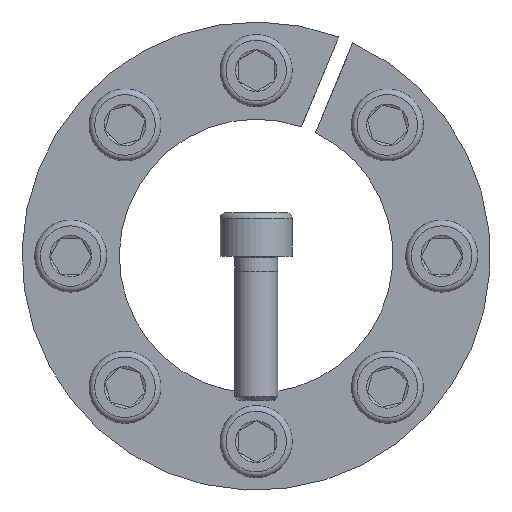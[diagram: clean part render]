
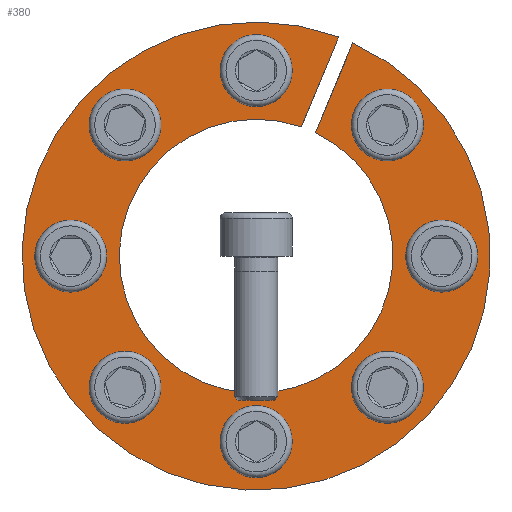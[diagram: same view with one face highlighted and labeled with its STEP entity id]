
A CAD part, front view. The second image highlights one B-rep face of the part: STEP entity #380.
In plain terms, the highlighted planar face has unit normal (0, -1, 0).
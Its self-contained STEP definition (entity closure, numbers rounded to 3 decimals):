
#380 = ADVANCED_FACE( '', ( #583, #584, #585, #586, #587, #588, #589, #590, #591 ), #592, .F. );
#583 = FACE_BOUND( '', #747, .T. );
#584 = FACE_BOUND( '', #748, .T. );
#585 = FACE_BOUND( '', #749, .T. );
#586 = FACE_BOUND( '', #750, .T. );
#587 = FACE_OUTER_BOUND( '', #751, .T. );
#588 = FACE_BOUND( '', #752, .T. );
#589 = FACE_BOUND( '', #753, .T. );
#590 = FACE_BOUND( '', #754, .T. );
#591 = FACE_BOUND( '', #755, .T. );
#592 = PLANE( '', #756 );
#747 = EDGE_LOOP( '', ( #960 ) );
#748 = EDGE_LOOP( '', ( #961 ) );
#749 = EDGE_LOOP( '', ( #962 ) );
#750 = EDGE_LOOP( '', ( #963 ) );
#751 = EDGE_LOOP( '', ( #964, #965, #966, #967 ) );
#752 = EDGE_LOOP( '', ( #968 ) );
#753 = EDGE_LOOP( '', ( #969 ) );
#754 = EDGE_LOOP( '', ( #970 ) );
#755 = EDGE_LOOP( '', ( #971 ) );
#756 = AXIS2_PLACEMENT_3D( '', #972, #973, #974 );
#960 = ORIENTED_EDGE( '', *, *, #1294, .T. );
#961 = ORIENTED_EDGE( '', *, *, #1295, .T. );
#962 = ORIENTED_EDGE( '', *, *, #1296, .T. );
#963 = ORIENTED_EDGE( '', *, *, #1297, .T. );
#964 = ORIENTED_EDGE( '', *, *, #1292, .F. );
#965 = ORIENTED_EDGE( '', *, *, #1288, .F. );
#966 = ORIENTED_EDGE( '', *, *, #1298, .T. );
#967 = ORIENTED_EDGE( '', *, *, #1299, .F. );
#968 = ORIENTED_EDGE( '', *, *, #1300, .T. );
#969 = ORIENTED_EDGE( '', *, *, #1301, .T. );
#970 = ORIENTED_EDGE( '', *, *, #1302, .T. );
#971 = ORIENTED_EDGE( '', *, *, #1303, .T. );
#972 = CARTESIAN_POINT( '', ( 0., 0., 32.5 ) );
#973 = DIRECTION( '', ( 0., 1., 0. ) );
#974 = DIRECTION( '', ( 0., 0., 1. ) );
#1288 = EDGE_CURVE( '', #1423, #1425, #1426, .T. );
#1292 = EDGE_CURVE( '', #1425, #1432, #1433, .T. );
#1294 = EDGE_CURVE( '', #1435, #1435, #1436, .T. );
#1295 = EDGE_CURVE( '', #1437, #1437, #1438, .T. );
#1296 = EDGE_CURVE( '', #1439, #1439, #1440, .T. );
#1297 = EDGE_CURVE( '', #1441, #1441, #1442, .T. );
#1298 = EDGE_CURVE( '', #1423, #1443, #1444, .T. );
#1299 = EDGE_CURVE( '', #1432, #1443, #1445, .T. );
#1300 = EDGE_CURVE( '', #1446, #1446, #1447, .T. );
#1301 = EDGE_CURVE( '', #1448, #1448, #1449, .T. );
#1302 = EDGE_CURVE( '', #1450, #1450, #1451, .T. );
#1303 = EDGE_CURVE( '', #1452, #1452, #1453, .T. );
#1423 = VERTEX_POINT( '', #1551 );
#1425 = VERTEX_POINT( '', #1554 );
#1426 = LINE( '', #1555, #1556 );
#1432 = VERTEX_POINT( '', #1564 );
#1433 = CIRCLE( '', #1565, 19. );
#1435 = VERTEX_POINT( '', #1568 );
#1436 = CIRCLE( '', #1569, 3. );
#1437 = VERTEX_POINT( '', #1570 );
#1438 = CIRCLE( '', #1571, 3. );
#1439 = VERTEX_POINT( '', #1572 );
#1440 = CIRCLE( '', #1573, 3. );
#1441 = VERTEX_POINT( '', #1574 );
#1442 = CIRCLE( '', #1575, 3. );
#1443 = VERTEX_POINT( '', #1576 );
#1444 = CIRCLE( '', #1577, 32.5 );
#1445 = LINE( '', #1578, #1579 );
#1446 = VERTEX_POINT( '', #1580 );
#1447 = CIRCLE( '', #1581, 3. );
#1448 = VERTEX_POINT( '', #1582 );
#1449 = CIRCLE( '', #1583, 3. );
#1450 = VERTEX_POINT( '', #1584 );
#1451 = CIRCLE( '', #1585, 3. );
#1452 = VERTEX_POINT( '', #1586 );
#1453 = CIRCLE( '', #1587, 3. );
#1551 = CARTESIAN_POINT( '', ( 11.446, 0., 30.418 ) );
#1554 = CARTESIAN_POINT( '', ( 6.275, 0., 17.934 ) );
#1555 = CARTESIAN_POINT( '', ( 11.453, 0., 30.434 ) );
#1556 = VECTOR( '', #1674, 1000. );
#1564 = CARTESIAN_POINT( '', ( 8.244, 0., 17.118 ) );
#1565 = AXIS2_PLACEMENT_3D( '', #1680, #1681, #1682 );
#1568 = CARTESIAN_POINT( '', ( -25.75, 0., 3. ) );
#1569 = AXIS2_PLACEMENT_3D( '', #1684, #1685, #1686 );
#1570 = CARTESIAN_POINT( '', ( -3., 0., -25.75 ) );
#1571 = AXIS2_PLACEMENT_3D( '', #1687, #1688, #1689 );
#1572 = CARTESIAN_POINT( '', ( 25.75, 0., -3. ) );
#1573 = AXIS2_PLACEMENT_3D( '', #1690, #1691, #1692 );
#1574 = CARTESIAN_POINT( '', ( 3., 0., 25.75 ) );
#1575 = AXIS2_PLACEMENT_3D( '', #1693, #1694, #1695 );
#1576 = CARTESIAN_POINT( '', ( 13.415, 0., 29.602 ) );
#1577 = AXIS2_PLACEMENT_3D( '', #1696, #1697, #1698 );
#1578 = CARTESIAN_POINT( '', ( 8.244, 0., 17.118 ) );
#1579 = VECTOR( '', #1699, 1000. );
#1580 = CARTESIAN_POINT( '', ( 20.329, 0., 16.087 ) );
#1581 = AXIS2_PLACEMENT_3D( '', #1700, #1701, #1702 );
#1582 = CARTESIAN_POINT( '', ( 16.087, 0., -20.329 ) );
#1583 = AXIS2_PLACEMENT_3D( '', #1703, #1704, #1705 );
#1584 = CARTESIAN_POINT( '', ( -20.329, 0., -16.087 ) );
#1585 = AXIS2_PLACEMENT_3D( '', #1706, #1707, #1708 );
#1586 = CARTESIAN_POINT( '', ( -16.087, 0., 20.329 ) );
#1587 = AXIS2_PLACEMENT_3D( '', #1709, #1710, #1711 );
#1674 = DIRECTION( '', ( -0.383, 0., -0.924 ) );
#1680 = CARTESIAN_POINT( '', ( 0., 0., 0. ) );
#1681 = DIRECTION( '', ( 0., -1., 0. ) );
#1682 = DIRECTION( '', ( 0., 0., -1. ) );
#1684 = CARTESIAN_POINT( '', ( -25.75, 0., 0. ) );
#1685 = DIRECTION( '', ( 0., 1., 0. ) );
#1686 = DIRECTION( '', ( 0., 0., 1. ) );
#1687 = CARTESIAN_POINT( '', ( 0., 0., -25.75 ) );
#1688 = DIRECTION( '', ( 0., 1., 0. ) );
#1689 = DIRECTION( '', ( -1., 0., 0. ) );
#1690 = CARTESIAN_POINT( '', ( 25.75, 0., 0. ) );
#1691 = DIRECTION( '', ( 0., 1., 0. ) );
#1692 = DIRECTION( '', ( 0., 0., -1. ) );
#1693 = CARTESIAN_POINT( '', ( 0., 0., 25.75 ) );
#1694 = DIRECTION( '', ( 0., 1., 0. ) );
#1695 = DIRECTION( '', ( 1., 0., 0. ) );
#1696 = CARTESIAN_POINT( '', ( 0., 0., 0. ) );
#1697 = DIRECTION( '', ( 0., -1., 0. ) );
#1698 = DIRECTION( '', ( 0., 0., -1. ) );
#1699 = DIRECTION( '', ( 0.383, 0., 0.924 ) );
#1700 = CARTESIAN_POINT( '', ( 18.208, 0., 18.208 ) );
#1701 = DIRECTION( '', ( 0., 1., 0. ) );
#1702 = DIRECTION( '', ( 0.707, 0., -0.707 ) );
#1703 = CARTESIAN_POINT( '', ( 18.208, 0., -18.208 ) );
#1704 = DIRECTION( '', ( 0., 1., 0. ) );
#1705 = DIRECTION( '', ( -0.707, 0., -0.707 ) );
#1706 = CARTESIAN_POINT( '', ( -18.208, 0., -18.208 ) );
#1707 = DIRECTION( '', ( 0., 1., 0. ) );
#1708 = DIRECTION( '', ( -0.707, 0., 0.707 ) );
#1709 = CARTESIAN_POINT( '', ( -18.208, 0., 18.208 ) );
#1710 = DIRECTION( '', ( 0., 1., 0. ) );
#1711 = DIRECTION( '', ( 0.707, 0., 0.707 ) );
